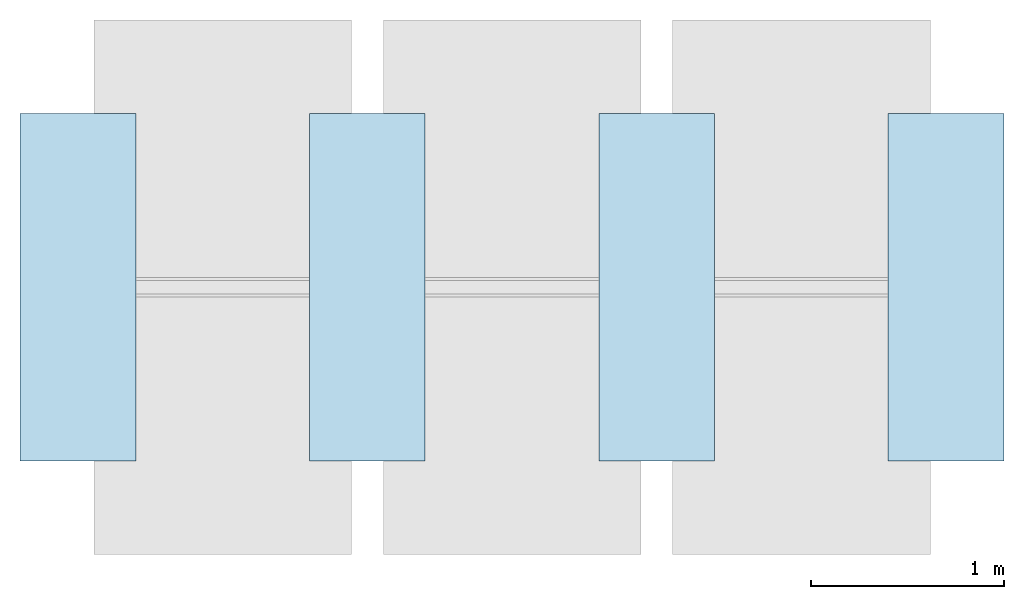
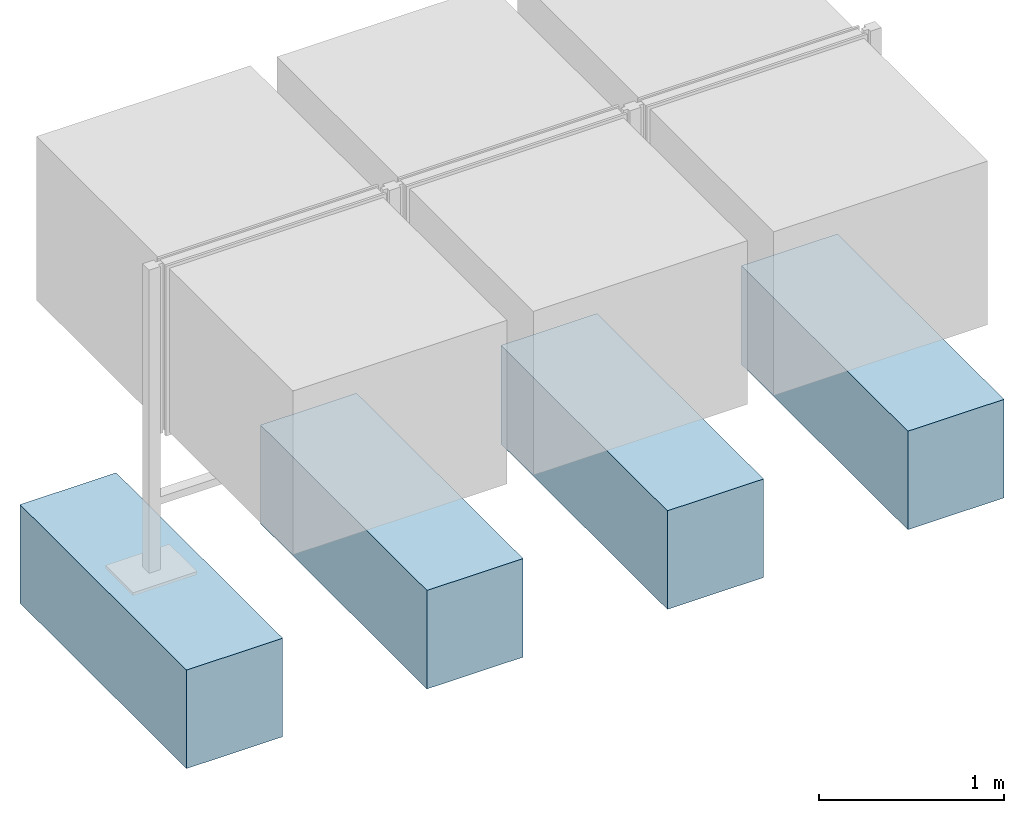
# One storey, incomplete: 4 slabs.
"""IFC4 building model written with IfcOpenShell, lengths in metres."""

import ifcopenshell
import ifcopenshell.guid

model = None  # the IFC model being written
_history = None  # IfcOwnerHistory: only IFC2X3 demands one
_inside = {}  # id of a spatial element -> (the spatial element, [elements in it])
_under = {}  # id of a project, library or spatial element -> (it, [spatial elements below it])
_declared = {}  # id of a project -> (the project, [libraries it declares])
_typed = {}  # id of a type object -> (the type object, [elements of that type])
_made_of = {}  # id of a material, layer set ... -> (it, [elements and type objects made of it])


def new_model(schema):
    """Start an empty IFC model of exactly this schema.

    Asked for "IFC4X3", IfcOpenShell would pick the latest addendum, in which some entities
    have other attributes; the version numbers below select the first issue.
    IFC2X3 requires an IfcOwnerHistory on every rooted entity: one is made here for all.
    """
    global model, _history
    if schema == "IFC4X3":
        model = ifcopenshell.file(schema_version=(4, 3, 0, 0))
    else:
        model = ifcopenshell.file(schema=schema)
    _inside.clear()
    _under.clear()
    _declared.clear()
    _typed.clear()
    _made_of.clear()
    _history = None
    if model.schema == "IFC2X3":
        org = make("IfcOrganization", Name="unknown")
        user = make(
            "IfcPersonAndOrganization",
            ThePerson=make("IfcPerson", FamilyName="unknown"),
            TheOrganization=org,
        )
        app = make(
            "IfcApplication",
            ApplicationDeveloper=org,
            Version="unknown",
            ApplicationFullName="unknown",
            ApplicationIdentifier="unknown",
        )
        _history = make(
            "IfcOwnerHistory",
            OwningUser=user,
            OwningApplication=app,
            ChangeAction="ADDED",
            CreationDate=0,
        )
    return model


def make(cls, **values):
    """One entity of the class cls with the attributes given. An attribute that is None is left unset."""
    return model.create_entity(
        cls, **{name: value for name, value in values.items() if value is not None}
    )


def entity(cls, *values):
    """Any entity or typed value of the class cls, its attributes in the order of the schema. None: left unset."""
    e = model.create_entity(cls)
    for i, value in enumerate(values):
        if value is not None:
            e[i] = value
    return e


def rooted(cls, **values):
    """An entity with a GlobalId (a new one), such as an element, a storey or a relation."""
    return make(cls, GlobalId=ifcopenshell.guid.new(), OwnerHistory=_history, **values)


def si_unit(unit_type, name, prefix=None):
    """IfcSIUnit, for example si_unit("LENGTHUNIT", "METRE", prefix="MILLI")."""
    return make("IfcSIUnit", UnitType=unit_type, Prefix=prefix, Name=name)


def converted_unit(unit_type, name, factor, base, dimensions=None, offset=None):
    """IfcConversionBasedUnit, such as the inch: factor (a typed value) times the base unit."""
    return make(
        "IfcConversionBasedUnit"
        if offset is None
        else "IfcConversionBasedUnitWithOffset",
        ConversionOffset=offset,
        Dimensions=None
        if dimensions is None
        else entity("IfcDimensionalExponents", *dimensions),
        UnitType=unit_type,
        Name=name,
        ConversionFactor=make(
            "IfcMeasureWithUnit", ValueComponent=factor, UnitComponent=base
        ),
    )


def assignment(units):
    """IfcUnitAssignment: the units of a project."""
    return None if units is None else make("IfcUnitAssignment", Units=units)


def point(xyz):
    """IfcCartesianPoint."""
    return None if xyz is None else make("IfcCartesianPoint", Coordinates=xyz)


def direction(xyz):
    """IfcDirection."""
    return None if xyz is None else make("IfcDirection", DirectionRatios=xyz)


def frame(location, z_axis=None, x_axis=None):
    """IfcAxis2Placement3D, a coordinate frame: its origin and axes. An axis left out is left unset."""
    return make(
        "IfcAxis2Placement3D",
        Location=point(location),
        Axis=direction(z_axis),
        RefDirection=direction(x_axis),
    )


def frame_2d(location, x_axis=None):
    """IfcAxis2Placement2D, a coordinate frame in the plane: its origin and x axis."""
    return make(
        "IfcAxis2Placement2D", Location=point(location), RefDirection=direction(x_axis)
    )


def origin():
    """The frame at (0, 0, 0) with its axes left unset."""
    return frame((0.0, 0.0, 0.0))


def origin_2d_with_axis():
    """The frame at (0, 0) in the plane with the x axis (1, 0) written out."""
    return frame_2d((0.0, 0.0), x_axis=(1.0, 0.0))


def place(relative_to, where):
    """IfcLocalPlacement: puts the frame where relative to a parent placement (None: the world)."""
    return make(
        "IfcLocalPlacement", PlacementRelTo=relative_to, RelativePlacement=where
    )


def context(
    kind, dimensions, precision=None, world=None, true_north=None, identifier=None
):
    """IfcGeometricRepresentationContext, for example the 3D "Model" context."""
    return make(
        "IfcGeometricRepresentationContext",
        ContextIdentifier=identifier,
        ContextType=kind,
        CoordinateSpaceDimension=dimensions,
        Precision=precision,
        WorldCoordinateSystem=world,
        TrueNorth=true_north,
    )


def subcontext(parent, identifier, kind, view, scale=None):
    """IfcGeometricRepresentationSubContext, for example "Body" below "Model"."""
    return make(
        "IfcGeometricRepresentationSubContext",
        ContextIdentifier=identifier,
        ContextType=kind,
        ParentContext=parent,
        TargetScale=scale,
        TargetView=view,
    )


def project(units=None, contexts=None):
    """IfcProject with its units and contexts."""
    return rooted(
        "IfcProject",
        Name="project",
        RepresentationContexts=contexts,
        UnitsInContext=assignment(units),
    )


def spatial(cls, under=None, at=None, **own):
    """A site, building, storey or space (cls), placed at a placement, below another one or the project."""
    s = rooted(cls, ObjectPlacement=at, **own)
    if under is not None:
        _under.setdefault(under.id(), (under, []))[1].append(s)
    return s


def profile(cls, at=None, kind="AREA", **sizes):
    """A parametric profile (cls). Its sizes go by their IFC names, for example OverallWidth=200.0."""
    return make(cls, ProfileType=kind, Position=at, **sizes)


def rectangle(**sizes):
    """IfcRectangleProfileDef."""
    return profile("IfcRectangleProfileDef", **sizes)


def extrude(swept, where, along, depth):
    """IfcExtrudedAreaSolid: the profile swept, set in the frame where, extruded along a direction by depth."""
    return make(
        "IfcExtrudedAreaSolid",
        SweptArea=swept,
        Position=where,
        ExtrudedDirection=direction(along),
        Depth=depth,
    )


def shape(context_of_items, identifier, shape_type, items):
    """IfcShapeRepresentation: the items that make up one representation, for example the "Body"."""
    return make(
        "IfcShapeRepresentation",
        ContextOfItems=context_of_items,
        RepresentationIdentifier=identifier,
        RepresentationType=shape_type,
        Items=items,
    )


def material(Name=None, Category=None):
    """IfcMaterial."""
    return make("IfcMaterial", Name=Name, Category=Category)


def made_of(thing, what):
    """Note that an element or type object is made of a material, layer set ...; save() writes the relation."""
    if what is not None:
        _made_of.setdefault(what.id(), (what, []))[1].append(thing)
    return thing


def type_object(cls, material=None, **own):
    """A type object (cls), such as IfcWallType, which elements share."""
    return made_of(rooted(cls, **own), material)


def element(
    cls,
    number,
    at=None,
    inside=None,
    cuts=None,
    type_object=None,
    material=None,
    context=None,
    identifier="Body",
    shape_type=None,
    held_by="IfcProductDefinitionShape",
    body=None,
    shapes=None,
    **own,
):
    """One element of the class cls, such as IfcWall. Its Tag is "e" and its number.

    at: its placement. inside: the storey or other place that contains it. cuts: it is an
    opening in that element (IfcRelVoidsElement). A single representation is given by context,
    identifier, shape_type and body (its items); several are given by shapes. held_by: the class
    of the entity that holds the representations. save() writes the other relations.
    """
    e = rooted(cls, Tag="e%d" % number, ObjectPlacement=at, **own)
    if body is not None:
        shapes = [shape(context, identifier, shape_type, body)]
    if shapes is not None:
        e.Representation = make(held_by, Representations=shapes)
    if inside is not None:
        _inside.setdefault(inside.id(), (inside, []))[1].append(e)
    if cuts is not None:
        rooted(
            "IfcRelVoidsElement", RelatingBuildingElement=cuts, RelatedOpeningElement=e
        )
    if type_object is not None:
        _typed.setdefault(type_object.id(), (type_object, []))[1].append(e)
    return made_of(e, material)


def aggregate(whole, parts):
    """IfcRelAggregates: a whole, such as a stair, and the parts it consists of."""
    return rooted("IfcRelAggregates", RelatingObject=whole, RelatedObjects=parts)


def save(model, path):
    """Write the relations noted so far, then the file.

    IfcRelAggregates (storeys below a building ...), IfcRelContainedInSpatialStructure (elements
    in a storey), IfcRelDefinesByType, IfcRelAssociatesMaterial and IfcRelDeclares: one each for
    every whole, place, type object, material and project.
    """
    for whole, parts in _under.values():
        aggregate(whole, parts)
    for where, things in _inside.values():
        rooted(
            "IfcRelContainedInSpatialStructure",
            RelatedElements=things,
            RelatingStructure=where,
        )
    for kind, things in _typed.values():
        rooted("IfcRelDefinesByType", RelatedObjects=things, RelatingType=kind)
    for what, things in _made_of.values():
        rooted("IfcRelAssociatesMaterial", RelatedObjects=things, RelatingMaterial=what)
    for by, libraries in _declared.values():
        rooted("IfcRelDeclares", RelatingContext=by, RelatedDefinitions=libraries)
    model.write(path)


model = new_model("IFC4")

# Units and contexts
model_context = context("Model", 3, precision=1e-05, world=origin(), true_north=direction((6.123031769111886e-17, 1.0)))
body_context = subcontext(model_context, "Body", "Model", "MODEL_VIEW")
ifc_project = project(units=[si_unit("LENGTHUNIT", "METRE"), converted_unit("PLANEANGLEUNIT", "DEGREE", entity("IfcPlaneAngleMeasure", 0.017453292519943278), si_unit("PLANEANGLEUNIT", "RADIAN"), dimensions=[0, 0, 0, 0, 0, 0, 0]), si_unit("AREAUNIT", "SQUARE_METRE")], contexts=[model_context])

# Site, building, storey
site_placement = place(None, origin())
site = spatial("IfcSite", under=ifc_project, at=site_placement, Name="Default", CompositionType="ELEMENT")
building_placement = place(site_placement, origin())
building = spatial("IfcBuilding", under=site, at=building_placement, CompositionType="ELEMENT")
storey_placement = place(building_placement, origin())
storey = spatial("IfcBuildingStorey", under=building, at=storey_placement, Name="DB_Bezugshoehe_max_Bahnsteigkante", CompositionType="ELEMENT", Elevation=0.0)

# Slabs
ifc_material = material(Name="DB_Ortbeton", Category="DB_Beton")
slab_type = type_object("IfcSlabType", Name="DB_Vitrine_Fundament:DB_Vitrine_Fundament", PredefinedType="BASESLAB", material=ifc_material)
slab_1_placement = place(storey_placement, origin())
element("IfcSlab", 1, at=slab_1_placement, inside=storey, type_object=slab_type, Name="DB_Vitrine_Fundament:DB_Vitrine_Fundament", ObjectType="DB_Vitrine_Fundament:DB_Vitrine_Fundament", PredefinedType="BASESLAB", context=body_context, shape_type="SweptSolid", body=[
    extrude(rectangle(XDim=1.8, YDim=0.5999999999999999, at=origin_2d_with_axis()), frame((-0.0006257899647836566, 0.0, 0.04999999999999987), z_axis=(0.0, 0.0, 1.0), x_axis=(0.0, 1.0, 0.0)), (0.0, 0.0, 1.0), 0.5999999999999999),
    extrude(rectangle(XDim=0.5999999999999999, YDim=1.7999999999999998, at=origin_2d_with_axis()), frame((-0.0006257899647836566, 0.0, 0.0), z_axis=(0.0, 0.0, 1.0), x_axis=(-1.0, 0.0, 0.0)), (0.0, 0.0, 1.0), 0.04999999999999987),
])
slab_2_placement = place(storey_placement, origin())
element("IfcSlab", 2, at=slab_2_placement, inside=storey, type_object=slab_type, Name="DB_Vitrine_Fundament:DB_Vitrine_Fundament", ObjectType="DB_Vitrine_Fundament:DB_Vitrine_Fundament", PredefinedType="BASESLAB", context=body_context, shape_type="SweptSolid", body=[
    extrude(rectangle(XDim=1.8, YDim=0.5999999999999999, at=frame_2d((0.0, -8.326672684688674e-17), x_axis=(1.0, 0.0))), frame((1.4993742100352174, 0.0, 0.04999999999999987), z_axis=(0.0, 0.0, 1.0), x_axis=(0.0, 1.0, 0.0)), (0.0, 0.0, 1.0), 0.5999999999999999),
    extrude(rectangle(XDim=0.6000000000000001, YDim=1.7999999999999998, at=origin_2d_with_axis()), frame((1.4993742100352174, 0.0, 0.0), z_axis=(0.0, 0.0, 1.0), x_axis=(-1.0, 0.0, 0.0)), (0.0, 0.0, 1.0), 0.04999999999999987),
])
slab_3_placement = place(storey_placement, origin())
element("IfcSlab", 3, at=slab_3_placement, inside=storey, type_object=slab_type, Name="DB_Vitrine_Fundament:DB_Vitrine_Fundament", ObjectType="DB_Vitrine_Fundament:DB_Vitrine_Fundament", PredefinedType="BASESLAB", context=body_context, shape_type="SweptSolid", body=[
    extrude(rectangle(XDim=1.8, YDim=0.6000000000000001, at=origin_2d_with_axis()), frame((2.9993742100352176, 0.0, 0.04999999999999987), z_axis=(0.0, 0.0, 1.0), x_axis=(0.0, 1.0, 0.0)), (0.0, 0.0, 1.0), 0.5999999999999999),
    extrude(rectangle(XDim=0.6000000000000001, YDim=1.7999999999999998, at=origin_2d_with_axis()), frame((2.9993742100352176, 0.0, 0.0), z_axis=(0.0, 0.0, 1.0), x_axis=(-1.0, 0.0, 0.0)), (0.0, 0.0, 1.0), 0.04999999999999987),
])
slab_4_placement = place(storey_placement, origin())
element("IfcSlab", 4, at=slab_4_placement, inside=storey, type_object=slab_type, Name="DB_Vitrine_Fundament:DB_Vitrine_Fundament", ObjectType="DB_Vitrine_Fundament:DB_Vitrine_Fundament", PredefinedType="BASESLAB", context=body_context, shape_type="SweptSolid", body=[
    extrude(rectangle(XDim=1.8, YDim=0.6000000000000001, at=origin_2d_with_axis()), frame((4.49937421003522, 0.0, 0.04999999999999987), z_axis=(0.0, 0.0, 1.0), x_axis=(0.0, 1.0, 0.0)), (0.0, 0.0, 1.0), 0.5999999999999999),
    extrude(rectangle(XDim=0.6000000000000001, YDim=1.7999999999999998, at=origin_2d_with_axis()), frame((4.49937421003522, 0.0, 0.0), z_axis=(0.0, 0.0, 1.0), x_axis=(-1.0, 0.0, 0.0)), (0.0, 0.0, 1.0), 0.04999999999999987),
])

save(model, "model.ifc")
